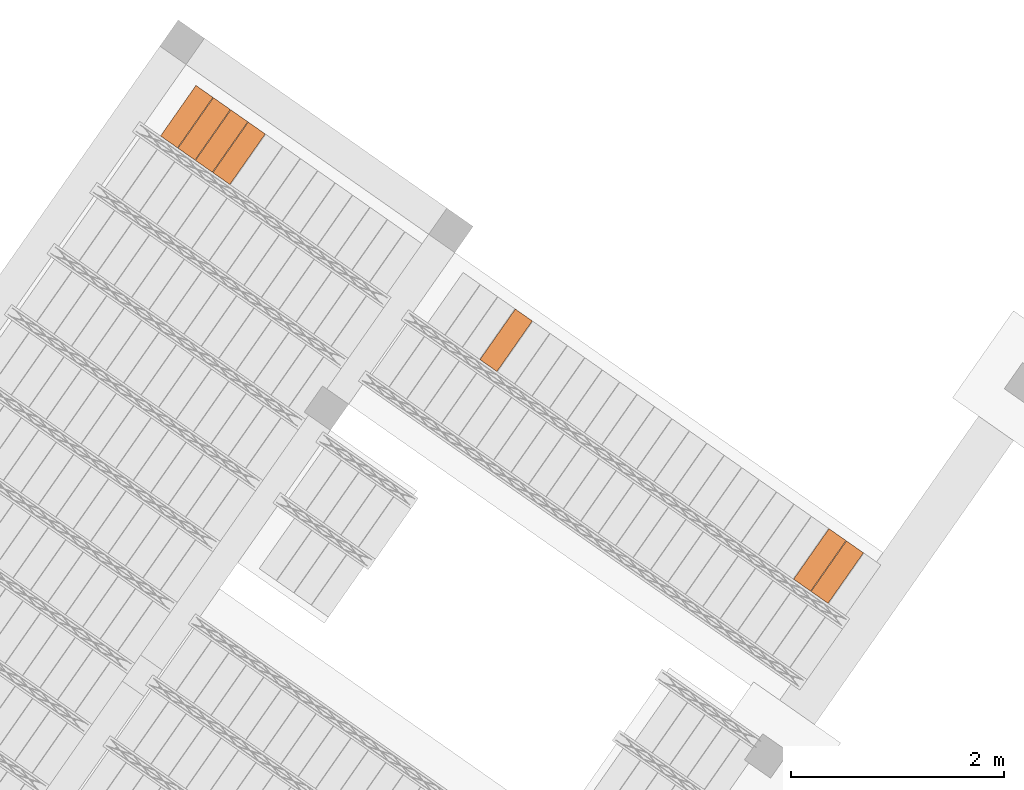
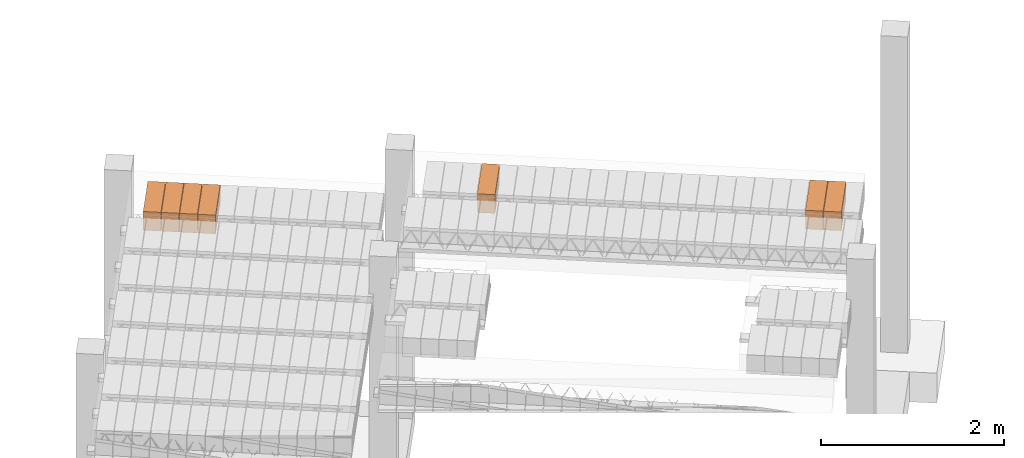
# One storey, part 80 of 80: 7 proxies.
"""IFC2X3 building model written with IfcOpenShell, lengths in metres."""

from ifc_helpers import new_model, entity, si_unit, converted_unit, derived_unit, direction, frame, origin, place, context, subcontext, project, spatial, polyline, outline, extrude, type_object, element, save


model = new_model("IFC2X3")

# Units and contexts
model_context = context("Model", 3, precision=1e-05, world=origin(), true_north=direction((6.123031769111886e-17, 1.0)))
body_context = subcontext(model_context, "Body", "Model", "MODEL_VIEW")
ifc_project = project(units=[si_unit("LENGTHUNIT", "METRE"), si_unit("AREAUNIT", "SQUARE_METRE"), si_unit("VOLUMEUNIT", "CUBIC_METRE"), converted_unit("PLANEANGLEUNIT", "DEGREE", entity("IfcPlaneAngleMeasure", 0.017453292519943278), si_unit("PLANEANGLEUNIT", "RADIAN"), dimensions=[0, 0, 0, 0, 0, 0, 0]), si_unit("MASSUNIT", "GRAM", prefix="KILO"), derived_unit("MASSDENSITYUNIT", [(si_unit("MASSUNIT", "GRAM", prefix="KILO"), 1), (si_unit("LENGTHUNIT", "METRE"), -3)]), derived_unit("IONCONCENTRATIONUNIT", [(si_unit("MASSUNIT", "GRAM", prefix="KILO"), 1), (si_unit("LENGTHUNIT", "METRE"), -3)]), derived_unit("MOMENTOFINERTIAUNIT", [(si_unit("LENGTHUNIT", "METRE"), 4)]), si_unit("TIMEUNIT", "SECOND"), si_unit("FREQUENCYUNIT", "HERTZ"), si_unit("THERMODYNAMICTEMPERATUREUNIT", "DEGREE_CELSIUS"), derived_unit("THERMALTRANSMITTANCEUNIT", [(si_unit("MASSUNIT", "GRAM", prefix="KILO"), 1), (si_unit("THERMODYNAMICTEMPERATUREUNIT", "KELVIN"), -1), (si_unit("TIMEUNIT", "SECOND"), -3)]), derived_unit("THERMALCONDUCTANCEUNIT", [(si_unit("MASSUNIT", "GRAM", prefix="KILO"), 1), (si_unit("THERMODYNAMICTEMPERATUREUNIT", "KELVIN"), -1), (si_unit("TIMEUNIT", "SECOND"), -3), (si_unit("LENGTHUNIT", "METRE"), 1)]), derived_unit("VOLUMETRICFLOWRATEUNIT", [(si_unit("LENGTHUNIT", "METRE", prefix="DECI"), 3), (si_unit("TIMEUNIT", "SECOND"), -1)]), derived_unit("MASSFLOWRATEUNIT", [(si_unit("MASSUNIT", "GRAM", prefix="KILO"), 1), (si_unit("TIMEUNIT", "SECOND"), -1)]), derived_unit("ROTATIONALFREQUENCYUNIT", [(si_unit("TIMEUNIT", "SECOND"), -1)]), si_unit("ELECTRICCURRENTUNIT", "AMPERE"), si_unit("ELECTRICVOLTAGEUNIT", "VOLT"), si_unit("POWERUNIT", "WATT"), si_unit("FORCEUNIT", "NEWTON", prefix="KILO"), si_unit("ILLUMINANCEUNIT", "LUX"), si_unit("LUMINOUSFLUXUNIT", "LUMEN"), si_unit("LUMINOUSINTENSITYUNIT", "CANDELA"), si_unit("ENERGYUNIT", "JOULE"), derived_unit("USERDEFINED", [(si_unit("MASSUNIT", "GRAM", prefix="KILO"), -1), (si_unit("LENGTHUNIT", "METRE"), -2), (si_unit("TIMEUNIT", "SECOND"), 3), (si_unit("LUMINOUSFLUXUNIT", "LUMEN"), 1)]), derived_unit("USERDEFINED", [(si_unit("MASSUNIT", "GRAM", prefix="KILO"), 1), (si_unit("TIMEUNIT", "SECOND"), -3), (si_unit("LENGTHUNIT", "METRE"), 3), (si_unit("ELECTRICCURRENTUNIT", "AMPERE"), -2)]), derived_unit("SOUNDPOWERUNIT", [(si_unit("MASSUNIT", "GRAM", prefix="KILO"), 1), (si_unit("TIMEUNIT", "SECOND"), -3), (si_unit("LENGTHUNIT", "METRE"), 2)]), derived_unit("SOUNDPRESSUREUNIT", [(si_unit("MASSUNIT", "GRAM", prefix="KILO"), 1), (si_unit("LENGTHUNIT", "METRE"), -1), (si_unit("TIMEUNIT", "SECOND"), -2)]), derived_unit("LINEARVELOCITYUNIT", [(si_unit("LENGTHUNIT", "METRE"), 1), (si_unit("TIMEUNIT", "SECOND"), -1)]), si_unit("PRESSUREUNIT", "PASCAL"), derived_unit("USERDEFINED", [(si_unit("MASSUNIT", "GRAM", prefix="KILO"), 1), (si_unit("LENGTHUNIT", "METRE"), -2), (si_unit("TIMEUNIT", "SECOND"), -2)]), derived_unit("LINEARFORCEUNIT", [(si_unit("MASSUNIT", "GRAM", prefix="KILO"), 1), (si_unit("TIMEUNIT", "SECOND"), -2)]), derived_unit("PLANARFORCEUNIT", [(si_unit("MASSUNIT", "GRAM", prefix="KILO"), 1), (si_unit("LENGTHUNIT", "METRE"), -1), (si_unit("TIMEUNIT", "SECOND"), -2)]), derived_unit("SPECIFICHEATCAPACITYUNIT", [(si_unit("THERMODYNAMICTEMPERATUREUNIT", "KELVIN"), -1), (si_unit("LENGTHUNIT", "METRE"), 2), (si_unit("TIMEUNIT", "SECOND"), -2)]), derived_unit("HEATFLUXDENSITYUNIT", [(si_unit("MASSUNIT", "GRAM", prefix="KILO"), 1), (si_unit("TIMEUNIT", "SECOND"), -3)]), derived_unit("HEATINGVALUEUNIT", [(si_unit("LENGTHUNIT", "METRE"), 2), (si_unit("TIMEUNIT", "SECOND"), -2)]), derived_unit("VAPORPERMEABILITYUNIT", [(si_unit("LENGTHUNIT", "METRE"), -1), (si_unit("TIMEUNIT", "SECOND"), 1)]), derived_unit("DYNAMICVISCOSITYUNIT", [(si_unit("MASSUNIT", "GRAM", prefix="KILO"), 1), (si_unit("TIMEUNIT", "SECOND"), -1), (si_unit("LENGTHUNIT", "METRE"), -1)]), derived_unit("THERMALEXPANSIONCOEFFICIENTUNIT", [(si_unit("THERMODYNAMICTEMPERATUREUNIT", "KELVIN"), -1)]), derived_unit("MODULUSOFELASTICITYUNIT", [(si_unit("MASSUNIT", "GRAM", prefix="KILO"), 1), (si_unit("LENGTHUNIT", "METRE"), -1), (si_unit("TIMEUNIT", "SECOND"), -2)]), derived_unit("ISOTHERMALMOISTURECAPACITYUNIT", [(si_unit("MASSUNIT", "GRAM", prefix="KILO"), -1), (si_unit("LENGTHUNIT", "METRE"), 3)]), derived_unit("MOISTUREDIFFUSIVITYUNIT", [(si_unit("TIMEUNIT", "SECOND"), -1), (si_unit("LENGTHUNIT", "METRE"), 2)]), derived_unit("MASSPERLENGTHUNIT", [(si_unit("MASSUNIT", "GRAM", prefix="KILO"), 1), (si_unit("LENGTHUNIT", "METRE"), -1)]), derived_unit("THERMALRESISTANCEUNIT", [(si_unit("MASSUNIT", "GRAM", prefix="KILO"), -1), (si_unit("TIMEUNIT", "SECOND"), 3), (si_unit("THERMODYNAMICTEMPERATUREUNIT", "KELVIN"), 1)]), derived_unit("ACCELERATIONUNIT", [(si_unit("LENGTHUNIT", "METRE"), 1), (si_unit("TIMEUNIT", "SECOND"), -2)]), derived_unit("ANGULARVELOCITYUNIT", [(si_unit("TIMEUNIT", "SECOND"), -1), (si_unit("PLANEANGLEUNIT", "RADIAN"), 1)]), derived_unit("LINEARSTIFFNESSUNIT", [(si_unit("MASSUNIT", "GRAM", prefix="KILO"), 1), (si_unit("TIMEUNIT", "SECOND"), -2)]), derived_unit("WARPINGCONSTANTUNIT", [(si_unit("LENGTHUNIT", "METRE"), 6)]), derived_unit("LINEARMOMENTUNIT", [(si_unit("MASSUNIT", "GRAM", prefix="KILO"), 1), (si_unit("LENGTHUNIT", "METRE"), 1), (si_unit("TIMEUNIT", "SECOND"), -2)]), derived_unit("TORQUEUNIT", [(si_unit("MASSUNIT", "GRAM", prefix="KILO"), 1), (si_unit("LENGTHUNIT", "METRE"), 2), (si_unit("TIMEUNIT", "SECOND"), -2)])], contexts=[model_context])

# Site, building, storey
site_placement = place(None, origin())
site = spatial("IfcSite", under=ifc_project, at=site_placement, Name="Default", CompositionType="ELEMENT")
building_placement = place(site_placement, origin())
building = spatial("IfcBuilding", under=site, at=building_placement, CompositionType="ELEMENT")
storey_placement = place(building_placement, frame((0.0, 0.0, 95.94)))
storey = spatial("IfcBuildingStorey", under=building, at=storey_placement, Name="PB", CompositionType="ELEMENT", Elevation=95.94)

# Proxies
building_element_proxy_type_1 = type_object("IfcBuildingElementProxyType", Name="Bovedilla 14-10 (Paño 2)", PredefinedType="USERDEFINED")
proxy_1_placement = place(storey_placement, origin())
element("IfcBuildingElementProxy", 1, at=proxy_1_placement, inside=storey, type_object=building_element_proxy_type_1, Name="Bovedilla 14-10 (Paño 2)", ObjectType="FORM", context=body_context, shape_type="SweptSolid", body=[
    extrude(outline(polyline([(-0.2900000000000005, -0.12500000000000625), (0.28999999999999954, -0.12500000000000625), (0.28999999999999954, 0.12500000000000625), (-0.2900000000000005, 0.12500000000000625), (-0.2900000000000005, -0.12500000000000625)]), holes=[polyline([(0.2700000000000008, -0.10499999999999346), (0.15499999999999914, -0.10499999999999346), (0.15499999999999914, 0.10499999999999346), (0.2700000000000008, 0.10499999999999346), (0.2700000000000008, 0.042499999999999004), (0.2700000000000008, -0.10499999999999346)]), polyline([(0.009999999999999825, -0.10499999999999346), (0.009999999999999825, 0.10499999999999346), (0.1349999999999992, 0.10499999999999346), (0.1349999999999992, -0.10499999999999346), (0.009999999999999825, -0.10499999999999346)]), polyline([(-0.1349999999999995, 0.10499999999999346), (-0.009999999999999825, 0.10499999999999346), (-0.009999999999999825, -0.10499999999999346), (-0.1349999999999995, -0.10499999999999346), (-0.1349999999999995, 0.10499999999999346)]), polyline([(-0.2700000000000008, -0.10499999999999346), (-0.2700000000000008, 0.042499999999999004), (-0.2700000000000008, 0.10499999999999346), (-0.15499999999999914, 0.10499999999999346), (-0.15499999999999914, -0.10499999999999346), (-0.2700000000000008, -0.10499999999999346)])]), frame((4.928228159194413, 9.978692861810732, 2.945000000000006), z_axis=(0.819152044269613, -0.5735764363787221, 0.0), x_axis=(-0.5735764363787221, -0.819152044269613, 0.0)), (0.0, 0.0, 1.0), 0.19499999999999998),
])
building_element_proxy_type_2 = type_object("IfcBuildingElementProxyType", Name="Bovedilla 14-11 (Paño 2)", PredefinedType="USERDEFINED")
proxy_2_placement = place(storey_placement, origin())
element("IfcBuildingElementProxy", 2, at=proxy_2_placement, inside=storey, type_object=building_element_proxy_type_2, Name="Bovedilla 14-11 (Paño 2)", ObjectType="FORM", context=body_context, shape_type="SweptSolid", body=[
    extrude(outline(polyline([(-0.2900000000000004, -0.12500000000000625), (0.2900000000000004, -0.12500000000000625), (0.2900000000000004, 0.12500000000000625), (-0.2900000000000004, 0.12500000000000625), (-0.2900000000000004, -0.12500000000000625)]), holes=[polyline([(0.2700000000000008, -0.10499999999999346), (0.15499999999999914, -0.10499999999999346), (0.15499999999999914, 0.10499999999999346), (0.2700000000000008, 0.10499999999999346), (0.2700000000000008, 0.042499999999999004), (0.2700000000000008, -0.10499999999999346)]), polyline([(0.009999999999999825, -0.10499999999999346), (0.009999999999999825, 0.10499999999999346), (0.1349999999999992, 0.10499999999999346), (0.1349999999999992, -0.10499999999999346), (0.009999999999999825, -0.10499999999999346)]), polyline([(-0.1349999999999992, 0.10499999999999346), (-0.009999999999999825, 0.10499999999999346), (-0.009999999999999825, -0.10499999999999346), (-0.1349999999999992, -0.10499999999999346), (-0.1349999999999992, 0.10499999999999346)]), polyline([(-0.2700000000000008, -0.10499999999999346), (-0.2700000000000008, 0.042499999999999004), (-0.2700000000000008, 0.10499999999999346), (-0.15499999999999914, 0.10499999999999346), (-0.15499999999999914, -0.10499999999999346), (-0.2700000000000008, -0.10499999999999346)])]), frame((4.764397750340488, 10.093408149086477, 2.945000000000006), z_axis=(0.8191520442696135, -0.5735764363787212, 0.0), x_axis=(-0.5735764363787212, -0.8191520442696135, 0.0)), (0.0, 0.0, 1.0), 0.19499999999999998),
])
building_element_proxy_type_3 = type_object("IfcBuildingElementProxyType", Name="Bovedilla 14-12 (Paño 2)", PredefinedType="USERDEFINED")
proxy_3_placement = place(storey_placement, origin())
element("IfcBuildingElementProxy", 3, at=proxy_3_placement, inside=storey, type_object=building_element_proxy_type_3, Name="Bovedilla 14-12 (Paño 2)", ObjectType="FORM", context=body_context, shape_type="SweptSolid", body=[
    extrude(outline(polyline([(-0.2900000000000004, -0.12500000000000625), (0.2900000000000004, -0.12500000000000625), (0.2900000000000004, 0.12500000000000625), (-0.2900000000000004, 0.12500000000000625), (-0.2900000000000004, -0.12500000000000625)]), holes=[polyline([(0.2700000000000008, -0.10499999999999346), (0.15499999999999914, -0.10499999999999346), (0.15499999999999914, 0.10499999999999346), (0.2700000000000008, 0.10499999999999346), (0.2700000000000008, 0.042499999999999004), (0.2700000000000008, -0.10499999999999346)]), polyline([(0.009999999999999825, -0.10499999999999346), (0.009999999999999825, 0.10499999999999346), (0.1349999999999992, 0.10499999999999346), (0.1349999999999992, -0.10499999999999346), (0.009999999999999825, -0.10499999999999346)]), polyline([(-0.1349999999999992, 0.10499999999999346), (-0.009999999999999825, 0.10499999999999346), (-0.009999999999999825, -0.10499999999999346), (-0.1349999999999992, -0.10499999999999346), (-0.1349999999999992, 0.10499999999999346)]), polyline([(-0.2700000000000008, -0.10499999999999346), (-0.2700000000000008, 0.042499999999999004), (-0.2700000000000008, 0.10499999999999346), (-0.15499999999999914, 0.10499999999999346), (-0.15499999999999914, -0.10499999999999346), (-0.2700000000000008, -0.10499999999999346)])]), frame((4.600567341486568, 10.208123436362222, 2.945000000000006), z_axis=(0.8191520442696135, -0.5735764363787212, 0.0), x_axis=(-0.5735764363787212, -0.8191520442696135, 0.0)), (0.0, 0.0, 1.0), 0.19499999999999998),
])
building_element_proxy_type_4 = type_object("IfcBuildingElementProxyType", Name="Bovedilla 14-13 (Paño 2)", PredefinedType="USERDEFINED")
proxy_4_placement = place(storey_placement, origin())
element("IfcBuildingElementProxy", 4, at=proxy_4_placement, inside=storey, type_object=building_element_proxy_type_4, Name="Bovedilla 14-13 (Paño 2)", ObjectType="FORM", context=body_context, shape_type="SweptSolid", body=[
    extrude(outline(polyline([(-0.2900000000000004, -0.12500000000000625), (0.2900000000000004, -0.12500000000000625), (0.2900000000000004, 0.12500000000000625), (-0.2900000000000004, 0.12500000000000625), (-0.2900000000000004, -0.12500000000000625)]), holes=[polyline([(0.2700000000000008, -0.10499999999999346), (0.15499999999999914, -0.10499999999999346), (0.15499999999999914, 0.10499999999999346), (0.2700000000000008, 0.10499999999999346), (0.2700000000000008, 0.042499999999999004), (0.2700000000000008, -0.10499999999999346)]), polyline([(0.009999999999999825, -0.10499999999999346), (0.009999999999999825, 0.10499999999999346), (0.1349999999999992, 0.10499999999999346), (0.1349999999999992, -0.10499999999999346), (0.009999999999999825, -0.10499999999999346)]), polyline([(-0.1349999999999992, 0.10499999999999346), (-0.009999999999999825, 0.10499999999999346), (-0.009999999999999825, -0.10499999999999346), (-0.1349999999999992, -0.10499999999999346), (-0.1349999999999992, 0.10499999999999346)]), polyline([(-0.2700000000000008, -0.10499999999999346), (-0.2700000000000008, 0.042499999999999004), (-0.2700000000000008, 0.10499999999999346), (-0.15499999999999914, 0.10499999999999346), (-0.15499999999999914, -0.10499999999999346), (-0.2700000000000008, -0.10499999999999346)])]), frame((4.436736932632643, 10.322838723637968, 2.945000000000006), z_axis=(0.8191520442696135, -0.5735764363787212, 0.0), x_axis=(-0.5735764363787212, -0.8191520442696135, 0.0)), (0.0, 0.0, 1.0), 0.19499999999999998),
])
building_element_proxy_type_5 = type_object("IfcBuildingElementProxyType", Name="Bovedilla 2-2 (Paño 15)", PredefinedType="USERDEFINED")
proxy_5_placement = place(storey_placement, origin())
element("IfcBuildingElementProxy", 5, at=proxy_5_placement, inside=storey, type_object=building_element_proxy_type_5, Name="Bovedilla 2-2 (Paño 15)", ObjectType="FORM", context=body_context, shape_type="SweptSolid", body=[
    extrude(outline(polyline([(-0.28999999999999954, -0.12500000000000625), (0.28999999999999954, -0.12500000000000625), (0.28999999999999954, 0.12500000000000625), (-0.28999999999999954, 0.12500000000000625), (-0.28999999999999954, -0.12500000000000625)]), holes=[polyline([(0.26999999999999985, -0.10499999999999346), (0.15500000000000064, -0.10499999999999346), (0.15500000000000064, 0.10499999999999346), (0.26999999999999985, 0.10499999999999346), (0.26999999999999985, 0.042499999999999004), (0.26999999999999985, -0.10499999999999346)]), polyline([(0.009999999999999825, -0.10499999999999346), (0.009999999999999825, 0.10499999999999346), (0.13499999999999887, 0.10499999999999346), (0.13499999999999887, -0.10499999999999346), (0.009999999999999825, -0.10499999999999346)]), polyline([(-0.13499999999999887, 0.10499999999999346), (-0.009999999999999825, 0.10499999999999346), (-0.009999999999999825, -0.10499999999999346), (-0.13499999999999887, -0.10499999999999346), (-0.13499999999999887, 0.10499999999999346)]), polyline([(-0.26999999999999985, -0.10499999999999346), (-0.26999999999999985, 0.042499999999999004), (-0.26999999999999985, 0.10499999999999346), (-0.15500000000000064, 0.10499999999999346), (-0.15500000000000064, -0.10499999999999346), (-0.26999999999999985, -0.10499999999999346)])]), frame((10.552160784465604, 6.040772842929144, 3.4050000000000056), z_axis=(0.8191520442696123, -0.5735764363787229, 0.0), x_axis=(-0.5735764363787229, -0.8191520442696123, 0.0)), (0.0, 0.0, 1.0), 0.1950000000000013),
])
building_element_proxy_type_6 = type_object("IfcBuildingElementProxyType", Name="Bovedilla 2-3 (Paño 15)", PredefinedType="USERDEFINED")
proxy_6_placement = place(storey_placement, origin())
element("IfcBuildingElementProxy", 6, at=proxy_6_placement, inside=storey, type_object=building_element_proxy_type_6, Name="Bovedilla 2-3 (Paño 15)", ObjectType="FORM", context=body_context, shape_type="SweptSolid", body=[
    extrude(outline(polyline([(-0.28999999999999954, -0.12500000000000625), (0.28999999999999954, -0.12500000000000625), (0.28999999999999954, 0.12500000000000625), (-0.28999999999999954, 0.12500000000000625), (-0.28999999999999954, -0.12500000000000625)]), holes=[polyline([(0.26999999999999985, -0.10499999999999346), (0.15500000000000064, -0.10499999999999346), (0.15500000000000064, 0.10499999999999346), (0.26999999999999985, 0.10499999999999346), (0.26999999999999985, 0.042499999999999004), (0.26999999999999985, -0.10499999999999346)]), polyline([(0.009999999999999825, -0.10499999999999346), (0.009999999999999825, 0.10499999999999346), (0.13499999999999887, 0.10499999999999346), (0.13499999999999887, -0.10499999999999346), (0.009999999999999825, -0.10499999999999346)]), polyline([(-0.13499999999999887, 0.10499999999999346), (-0.009999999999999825, 0.10499999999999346), (-0.009999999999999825, -0.10499999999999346), (-0.13499999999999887, -0.10499999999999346), (-0.13499999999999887, 0.10499999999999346)]), polyline([(-0.26999999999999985, -0.10499999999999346), (-0.26999999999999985, 0.042499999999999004), (-0.26999999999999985, 0.10499999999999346), (-0.15500000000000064, 0.10499999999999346), (-0.15500000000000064, -0.10499999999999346), (-0.26999999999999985, -0.10499999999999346)])]), frame((10.388330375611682, 6.1554881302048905, 3.4050000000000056), z_axis=(0.8191520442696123, -0.5735764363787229, 0.0), x_axis=(-0.5735764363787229, -0.8191520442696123, 0.0)), (0.0, 0.0, 1.0), 0.1950000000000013),
])
building_element_proxy_type_7 = type_object("IfcBuildingElementProxyType", Name="Bovedilla 2-21 (Paño 15)", PredefinedType="USERDEFINED")
proxy_7_placement = place(storey_placement, origin())
element("IfcBuildingElementProxy", 7, at=proxy_7_placement, inside=storey, type_object=building_element_proxy_type_7, Name="Bovedilla 2-21 (Paño 15)", ObjectType="FORM", context=body_context, shape_type="SweptSolid", body=[
    extrude(outline(polyline([(-0.28999999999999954, -0.12500000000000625), (0.28999999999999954, -0.12500000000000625), (0.28999999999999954, 0.12500000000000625), (-0.28999999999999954, 0.12500000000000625), (-0.28999999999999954, -0.12500000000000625)]), holes=[polyline([(0.26999999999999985, -0.10499999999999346), (0.15500000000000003, -0.10499999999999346), (0.15500000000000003, 0.10499999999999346), (0.26999999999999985, 0.10499999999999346), (0.26999999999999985, 0.042499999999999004), (0.26999999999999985, -0.10499999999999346)]), polyline([(0.009999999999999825, -0.10499999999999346), (0.009999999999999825, 0.10499999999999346), (0.1350000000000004, 0.10499999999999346), (0.1350000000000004, -0.10499999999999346), (0.009999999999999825, -0.10499999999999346)]), polyline([(-0.1350000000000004, 0.10499999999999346), (-0.009999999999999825, 0.10499999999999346), (-0.009999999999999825, -0.10499999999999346), (-0.1350000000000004, -0.10499999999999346), (-0.1350000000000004, 0.10499999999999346)]), polyline([(-0.26999999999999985, -0.10499999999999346), (-0.26999999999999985, 0.042499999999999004), (-0.26999999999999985, 0.10499999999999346), (-0.15500000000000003, 0.10499999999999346), (-0.15500000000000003, -0.10499999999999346), (-0.26999999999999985, -0.10499999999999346)])]), frame((7.439383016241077, 8.220363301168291, 3.4050000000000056), z_axis=(0.8191520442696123, -0.5735764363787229, 0.0), x_axis=(-0.5735764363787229, -0.8191520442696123, 0.0)), (0.0, 0.0, 1.0), 0.19499999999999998),
])

save(model, "model.ifc")
